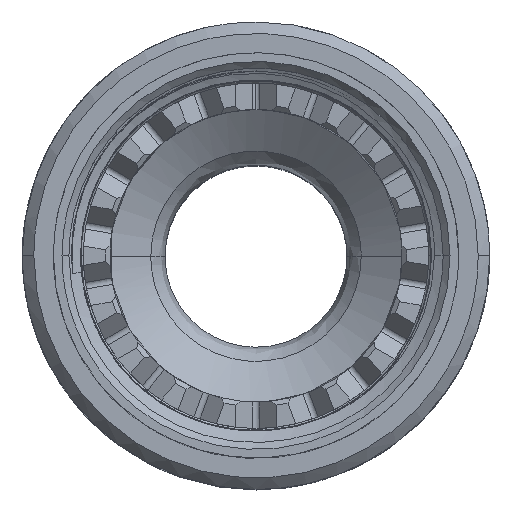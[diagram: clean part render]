
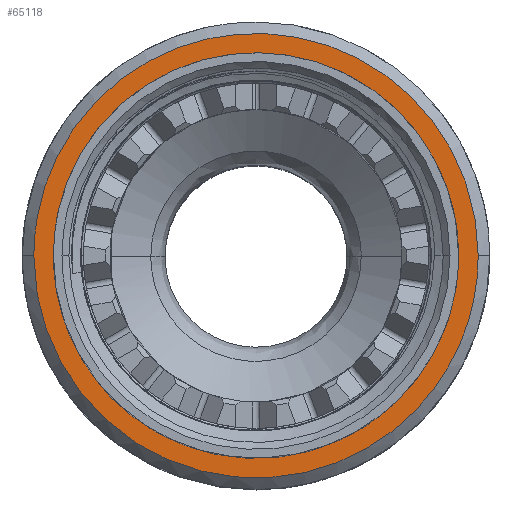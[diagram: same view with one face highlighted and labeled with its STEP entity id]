
A CAD part, top view. The second image highlights one B-rep face of the part: STEP entity #65118.
In plain terms, the highlighted free-form (B-spline) face has degree [1, 1] with [2, 2] control points.
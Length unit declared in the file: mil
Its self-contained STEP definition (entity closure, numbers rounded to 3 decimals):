
#217 =( BOUNDED_CURVE ( )  B_SPLINE_CURVE ( 3, ( #33869, #40472, #78004, #52853, #26799, #58613, #14405 ),
 .UNSPECIFIED., .F., .F. ) 
 B_SPLINE_CURVE_WITH_KNOTS ( ( 4, 3, 4 ),
 ( -3.142, -1.571, 0. ),
 .UNSPECIFIED. ) 
 CURVE ( )  GEOMETRIC_REPRESENTATION_ITEM ( )  RATIONAL_B_SPLINE_CURVE ( ( 1., 0.805, 0.805, 1., 0.805, 0.805, 1. ) ) 
 REPRESENTATION_ITEM ( '' )  );
#2460 = CARTESIAN_POINT ( 'NONE',  ( 379.921, 0., -334.646 ) ) ;
#5416 = EDGE_CURVE ( 'NONE', #42643, #76146, #58570, .T. ) ;
#9824 = ORIENTED_EDGE ( 'NONE', *, *, #5416, .F. ) ;
#9885 = FACE_BOUND ( 'NONE', #57841, .T. ) ;
#14405 = CARTESIAN_POINT ( 'NONE',  ( 346.457, 0., -334.646 ) ) ;
#15319 = CARTESIAN_POINT ( 'NONE',  ( 379.921, 222.553, -334.646 ) ) ;
#15681 = CARTESIAN_POINT ( 'NONE',  ( -379.921, 0., -334.646 ) ) ;
#21179 =( BOUNDED_CURVE ( )  B_SPLINE_CURVE ( 3, ( #27587, #52826, #72981, #21795 ),
 .UNSPECIFIED., .F., .F. ) 
 B_SPLINE_CURVE_WITH_KNOTS ( ( 4, 4 ),
 ( -3.142, 0. ),
 .UNSPECIFIED. ) 
 CURVE ( )  GEOMETRIC_REPRESENTATION_ITEM ( )  RATIONAL_B_SPLINE_CURVE ( ( 1., 0.333, 0.333, 1. ) ) 
 REPRESENTATION_ITEM ( '' )  );
#21795 = CARTESIAN_POINT ( 'NONE',  ( 379.921, 0., -334.646 ) ) ;
#22328 = CARTESIAN_POINT ( 'NONE',  ( -379.921, 0., -334.646 ) ) ;
#26799 = CARTESIAN_POINT ( 'NONE',  ( 202.95, 346.457, -334.646 ) ) ;
#27587 = CARTESIAN_POINT ( 'NONE',  ( -379.921, 0., -334.646 ) ) ;
#28157 = EDGE_CURVE ( 'NONE', #68459, #64796, #217, .T. ) ;
#33869 = CARTESIAN_POINT ( 'NONE',  ( -346.457, 0., -334.646 ) ) ;
#34772 = CARTESIAN_POINT ( 'NONE',  ( -222.553, 379.921, -334.646 ) ) ;
#35595 = EDGE_CURVE ( 'NONE', #64796, #68459, #71858, .T. ) ;
#36683 = EDGE_LOOP ( 'NONE', ( #9824, #52768 ) ) ;
#40472 = CARTESIAN_POINT ( 'NONE',  ( -346.457, 202.95, -334.646 ) ) ;
#40575 = CARTESIAN_POINT ( 'NONE',  ( 222.553, 379.921, -334.646 ) ) ;
#42574 = CARTESIAN_POINT ( 'NONE',  ( -384.48, -384.48, -334.646 ) ) ;
#42643 = VERTEX_POINT ( 'NONE', #77574 ) ;
#43684 = ORIENTED_EDGE ( 'NONE', *, *, #35595, .F. ) ;
#52768 = ORIENTED_EDGE ( 'NONE', *, *, #66645, .F. ) ;
#52826 = CARTESIAN_POINT ( 'NONE',  ( -379.921, -759.843, -334.646 ) ) ;
#52853 = CARTESIAN_POINT ( 'NONE',  ( 0., 346.457, -334.646 ) ) ;
#53354 = CARTESIAN_POINT ( 'NONE',  ( -346.457, 0., -334.646 ) ) ;
#57730 = CARTESIAN_POINT ( 'NONE',  ( 346.457, 0., -334.646 ) ) ;
#57841 = EDGE_LOOP ( 'NONE', ( #59893, #43684 ) ) ;
#58570 =( BOUNDED_CURVE ( )  B_SPLINE_CURVE ( 3, ( #2460, #15319, #40575, #78934, #34772, #59940, #22328 ),
 .UNSPECIFIED., .F., .F. ) 
 B_SPLINE_CURVE_WITH_KNOTS ( ( 4, 3, 4 ),
 ( -3.142, -1.571, 0. ),
 .UNSPECIFIED. ) 
 CURVE ( )  GEOMETRIC_REPRESENTATION_ITEM ( )  RATIONAL_B_SPLINE_CURVE ( ( 1., 0.805, 0.805, 1., 0.805, 0.805, 1. ) ) 
 REPRESENTATION_ITEM ( '' )  );
#58613 = CARTESIAN_POINT ( 'NONE',  ( 346.457, 202.95, -334.646 ) ) ;
#59893 = ORIENTED_EDGE ( 'NONE', *, *, #28157, .F. ) ;
#59940 = CARTESIAN_POINT ( 'NONE',  ( -379.921, 222.553, -334.646 ) ) ;
#63923 = CARTESIAN_POINT ( 'NONE',  ( -346.457, 0., -334.646 ) ) ;
#64796 = VERTEX_POINT ( 'NONE', #67802 ) ;
#65118 = ADVANCED_FACE ( 'NONE', ( #9885, #72301 ), #74696, .F. ) ;
#66487 = CARTESIAN_POINT ( 'NONE',  ( -384.48, 384.48, -334.646 ) ) ;
#66645 = EDGE_CURVE ( 'NONE', #76146, #42643, #21179, .T. ) ;
#67802 = CARTESIAN_POINT ( 'NONE',  ( 346.457, 0., -334.646 ) ) ;
#68459 = VERTEX_POINT ( 'NONE', #53354 ) ;
#69694 = CARTESIAN_POINT ( 'NONE',  ( -346.457, -692.913, -334.646 ) ) ;
#71858 =( BOUNDED_CURVE ( )  B_SPLINE_CURVE ( 3, ( #57730, #81756, #69694, #63923 ),
 .UNSPECIFIED., .F., .F. ) 
 B_SPLINE_CURVE_WITH_KNOTS ( ( 4, 4 ),
 ( -6.283, -3.142 ),
 .UNSPECIFIED. ) 
 CURVE ( )  GEOMETRIC_REPRESENTATION_ITEM ( )  RATIONAL_B_SPLINE_CURVE ( ( 1., 0.333, 0.333, 1. ) ) 
 REPRESENTATION_ITEM ( '' )  );
#72301 = FACE_OUTER_BOUND ( 'NONE', #36683, .T. ) ;
#72981 = CARTESIAN_POINT ( 'NONE',  ( 379.921, -759.843, -334.646 ) ) ;
#73535 = CARTESIAN_POINT ( 'NONE',  ( 384.48, -384.48, -334.646 ) ) ;
#74696 = B_SPLINE_SURFACE_WITH_KNOTS ( 'NONE', 1, 1, ( 
 ( #42574, #66487 ),
 ( #73535, #79318 ) ),
 .UNSPECIFIED., .F., .F., .F.,
 ( 2, 2 ),
 ( 2, 2 ),
 ( 0., 1. ),
 ( 0., 1. ),
 .UNSPECIFIED. ) ;
#76146 = VERTEX_POINT ( 'NONE', #15681 ) ;
#77574 = CARTESIAN_POINT ( 'NONE',  ( 379.921, 0., -334.646 ) ) ;
#78004 = CARTESIAN_POINT ( 'NONE',  ( -202.95, 346.457, -334.646 ) ) ;
#78934 = CARTESIAN_POINT ( 'NONE',  ( 0., 379.921, -334.646 ) ) ;
#79318 = CARTESIAN_POINT ( 'NONE',  ( 384.48, 384.48, -334.646 ) ) ;
#81756 = CARTESIAN_POINT ( 'NONE',  ( 346.457, -692.913, -334.646 ) ) ;
